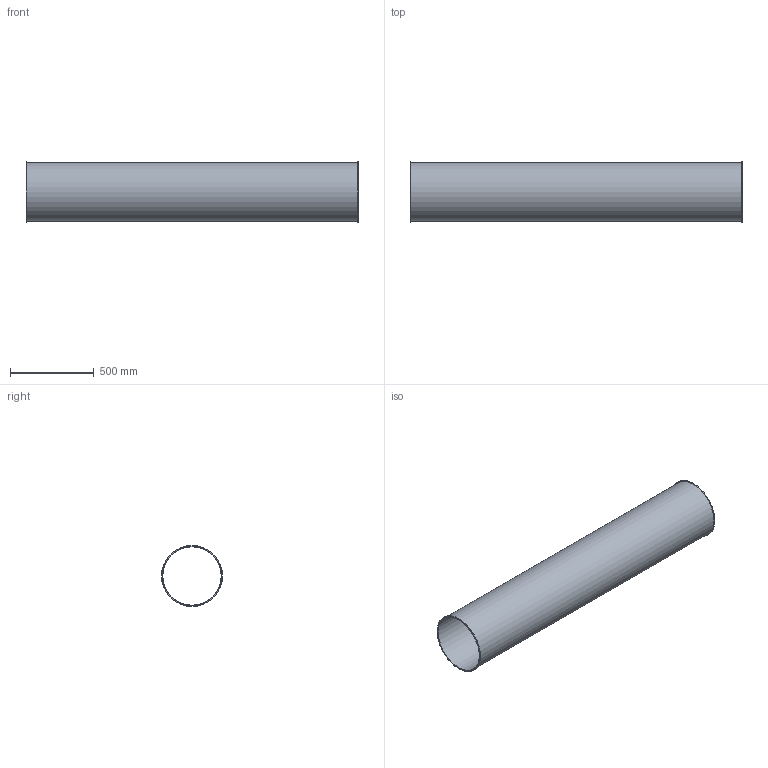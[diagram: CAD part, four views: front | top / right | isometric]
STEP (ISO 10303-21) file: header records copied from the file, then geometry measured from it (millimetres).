
FILE_DESCRIPTION((''),'2;1');
FILE_NAME('U:\Wolfgang\Marcel-3D\fertig\Kapitel 1\3521001.stp','2010-05-31T11:41:52',('TK2'),(''),'Autodesk Inventor 2010','Autodesk Inventor 2010','');
FILE_SCHEMA(('AUTOMOTIVE_DESIGN { 1 0 10303 214 1 1 1 1 }'));
Length unit declared in the file: millimetre
Products named in the file (1): 3521001
Bounding box: 1986 x 365 x 365 mm (x, y, z)
Volume: 4406988.5 mm3; surface area: 4411550.1 mm2
Topology: 1 solids, 1 shells, 8 faces, 12 edges, 8 vertices
Faces by surface type: cylinder 4, plane 4
Full cylindrical faces by diameter (mm): 349 x1, 353 x1, 365 x2
Entity records: 194 total; most frequent: DIRECTION 34, CARTESIAN_POINT 25, AXIS2_PLACEMENT_3D 17, ORIENTED_EDGE 16, EDGE_LOOP 16, VERTEX_POINT 8, CIRCLE 8, EDGE_CURVE 8
